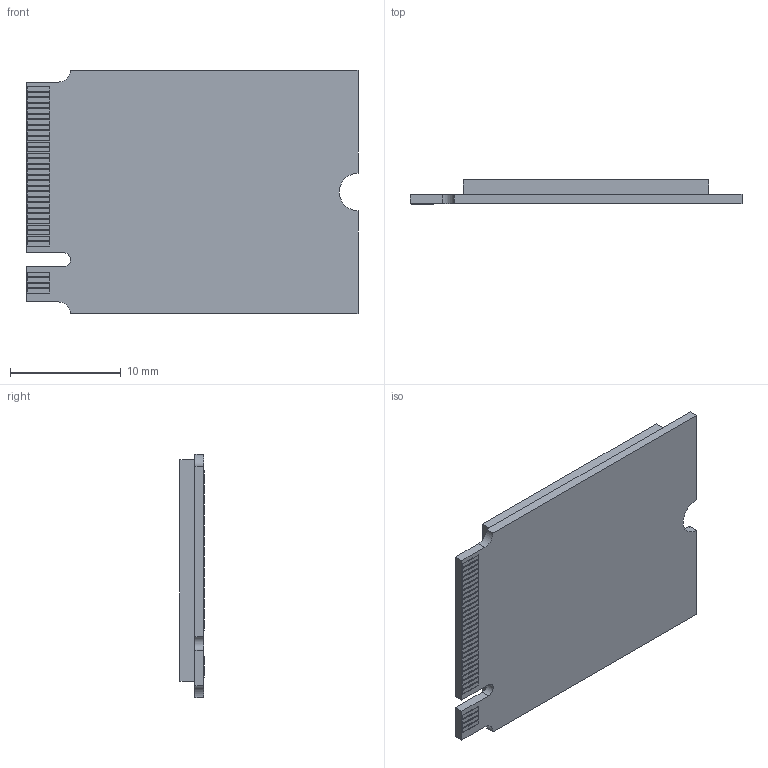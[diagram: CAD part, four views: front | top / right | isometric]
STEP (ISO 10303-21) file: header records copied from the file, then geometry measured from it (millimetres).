
FILE_DESCRIPTION (( 'STEP AP203' ), '1' );
FILE_NAME ('RPi_2230_SSD.STEP', '2025-11-30T16:02:25', ( '' ), ( '' ), 'SwSTEP 2.0', 'SolidWorks 2025', '' );
FILE_SCHEMA (( 'CONFIG_CONTROL_DESIGN' ));
Length unit declared in the file: millimetre
Products named in the file (1): RPi_2230_SSD
Bounding box: 30 x 2.19 x 22 mm (x, y, z)
Volume: 1115.6 mm3; surface area: 1622.9 mm2
Topology: 69 solids, 69 shells, 429 faces, 870 edges, 580 vertices
Faces by surface type: plane 423, cylinder 6
Entity records: 10917 total; most frequent: CARTESIAN_POINT 1880, DIRECTION 1742, ORIENTED_EDGE 1740, EDGE_CURVE 870, LINE 858, VECTOR 858, VERTEX_POINT 580, AXIS2_PLACEMENT_3D 442
